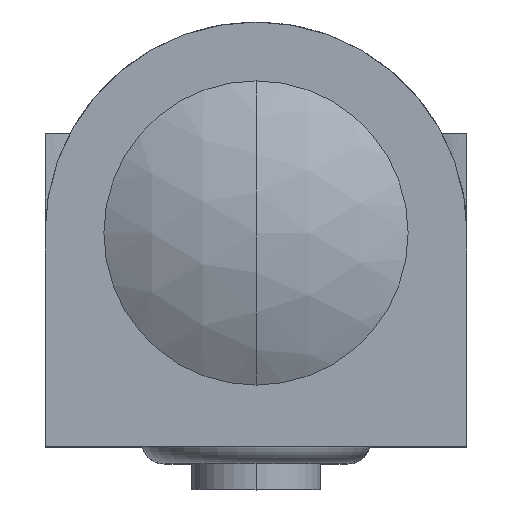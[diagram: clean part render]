
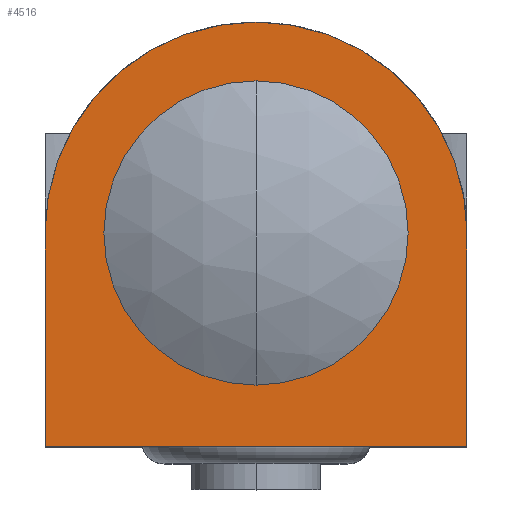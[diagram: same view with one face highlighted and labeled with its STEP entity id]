
A CAD part, top view. The second image highlights one B-rep face of the part: STEP entity #4516.
In plain terms, the highlighted planar face has unit normal (0, 0, 1).
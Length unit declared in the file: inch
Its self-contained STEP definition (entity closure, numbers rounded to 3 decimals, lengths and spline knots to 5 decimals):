
#474 = LINE ( 'NONE', #3038, #25833 ) ;
#1309 = DIRECTION ( 'NONE',  ( 0., 0., 1. ) ) ;
#1510 = CIRCLE ( 'NONE', #17897, 0.106 ) ;
#2663 = VERTEX_POINT ( 'NONE', #20296 ) ;
#3038 = CARTESIAN_POINT ( 'NONE',  ( -0.147, -0.1485, 0.39 ) ) ;
#3419 = CARTESIAN_POINT ( 'NONE',  ( 0., 0., 0.39 ) ) ;
#3502 = DIRECTION ( 'NONE',  ( 1., 0., 0. ) ) ;
#4516 = ADVANCED_FACE ( 'NONE', ( #23039, #9787 ), #7508, .T. ) ;
#5487 = DIRECTION ( 'NONE',  ( 0., 0., 1. ) ) ;
#5561 = DIRECTION ( 'NONE',  ( 1., 0., 0. ) ) ;
#5667 = VERTEX_POINT ( 'NONE', #6686 ) ;
#6014 = AXIS2_PLACEMENT_3D ( 'NONE', #7646, #18638, #3502 ) ;
#6686 = CARTESIAN_POINT ( 'NONE',  ( 0.147, 0., 0.39 ) ) ;
#6829 = EDGE_CURVE ( 'NONE', #2663, #15821, #26196, .T. ) ;
#7342 = CARTESIAN_POINT ( 'NONE',  ( 0., 0., 0.39 ) ) ;
#7508 = PLANE ( 'NONE',  #6014 ) ;
#7597 = ORIENTED_EDGE ( 'NONE', *, *, #21733, .F. ) ;
#7646 = CARTESIAN_POINT ( 'NONE',  ( 0., 0., 0.39 ) ) ;
#7901 = VECTOR ( 'NONE', #17403, 39.37008 ) ;
#8083 = LINE ( 'NONE', #9646, #17741 ) ;
#9616 = DIRECTION ( 'NONE',  ( 1., 0., 0. ) ) ;
#9646 = CARTESIAN_POINT ( 'NONE',  ( 0.147, 0., 0.39 ) ) ;
#9787 = FACE_OUTER_BOUND ( 'NONE', #16149, .T. ) ;
#10185 = CARTESIAN_POINT ( 'NONE',  ( -0.147, -0.1485, 0.39 ) ) ;
#10271 = DIRECTION ( 'NONE',  ( 0., 0., 1. ) ) ;
#11118 = EDGE_CURVE ( 'NONE', #15821, #25712, #474, .T. ) ;
#11170 = CARTESIAN_POINT ( 'NONE',  ( 0., -0.106, 0.39 ) ) ;
#12040 = CARTESIAN_POINT ( 'NONE',  ( 0., 0.106, 0.39 ) ) ;
#12165 = DIRECTION ( 'NONE',  ( 1., 0., 0. ) ) ;
#15821 = VERTEX_POINT ( 'NONE', #10185 ) ;
#16149 = EDGE_LOOP ( 'NONE', ( #27737, #25289, #16348, #19885 ) ) ;
#16348 = ORIENTED_EDGE ( 'NONE', *, *, #21969, .T. ) ;
#17305 = VERTEX_POINT ( 'NONE', #11170 ) ;
#17403 = DIRECTION ( 'NONE',  ( 0., -1., 0. ) ) ;
#17741 = VECTOR ( 'NONE', #18360, 39.37008 ) ;
#17897 = AXIS2_PLACEMENT_3D ( 'NONE', #25382, #1309, #12165 ) ;
#18360 = DIRECTION ( 'NONE',  ( 0., 1., 0. ) ) ;
#18638 = DIRECTION ( 'NONE',  ( 0., 0., 1. ) ) ;
#19885 = ORIENTED_EDGE ( 'NONE', *, *, #6829, .T. ) ;
#20202 = AXIS2_PLACEMENT_3D ( 'NONE', #3419, #10271, #5561 ) ;
#20296 = CARTESIAN_POINT ( 'NONE',  ( -0.147, 0., 0.39 ) ) ;
#20995 = ORIENTED_EDGE ( 'NONE', *, *, #21327, .F. ) ;
#21327 = EDGE_CURVE ( 'NONE', #17305, #25442, #22438, .T. ) ;
#21733 = EDGE_CURVE ( 'NONE', #25442, #17305, #1510, .T. ) ;
#21969 = EDGE_CURVE ( 'NONE', #5667, #2663, #23369, .T. ) ;
#22438 = CIRCLE ( 'NONE', #26505, 0.106 ) ;
#23039 = FACE_BOUND ( 'NONE', #23776, .T. ) ;
#23369 = CIRCLE ( 'NONE', #20202, 0.147 ) ;
#23776 = EDGE_LOOP ( 'NONE', ( #7597, #20995 ) ) ;
#24291 = DIRECTION ( 'NONE',  ( 1., 0., 0. ) ) ;
#25289 = ORIENTED_EDGE ( 'NONE', *, *, #27039, .T. ) ;
#25382 = CARTESIAN_POINT ( 'NONE',  ( 0., 0., 0.39 ) ) ;
#25442 = VERTEX_POINT ( 'NONE', #12040 ) ;
#25712 = VERTEX_POINT ( 'NONE', #27227 ) ;
#25833 = VECTOR ( 'NONE', #24291, 39.37008 ) ;
#26196 = LINE ( 'NONE', #26465, #7901 ) ;
#26465 = CARTESIAN_POINT ( 'NONE',  ( -0.147, 0., 0.39 ) ) ;
#26505 = AXIS2_PLACEMENT_3D ( 'NONE', #7342, #5487, #9616 ) ;
#27039 = EDGE_CURVE ( 'NONE', #25712, #5667, #8083, .T. ) ;
#27227 = CARTESIAN_POINT ( 'NONE',  ( 0.147, -0.1485, 0.39 ) ) ;
#27737 = ORIENTED_EDGE ( 'NONE', *, *, #11118, .T. ) ;
